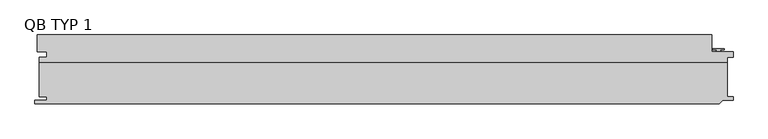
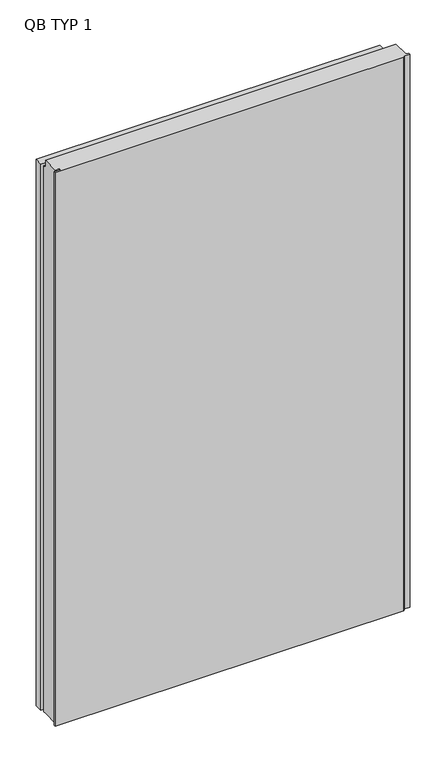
"""IFC4 building model written with IfcOpenShell, lengths in millimetres: plate geometry, TR_C_V_QBISS_Panel : QB TYP 1."""

from ifc_helpers import new_model, si_unit, frame, origin, place, context, project, spatial, polyline, outline, extrude, faceted_brep, source, transform, mapped, element, save


def qb_typ_1_dcc568af(model_context):
    return source(origin(), model_context, "Body", "SolidModel", [
        faceted_brep([(-600.0, -108.0, 2012.4), (-587.0, -108.0, 2012.4), (-587.0, -114.0, 2012.4), (-608.0, -114.0, 2012.4), (-608.0, -120.0, 2012.4), (586.0, -120.0, 2012.4), (592.0, -114.0, 2012.4), (610.0, -114.0, 2012.4), (610.0, -108.0, 2012.4), (600.0, -108.0, 2012.4), (600.0, -49.0, 2012.4), (-600.0, -49.0, 2012.4), (600.0, -108.0, 12.5), (610.0, -108.0, 12.5), (610.0, -114.0, 12.5), (592.0, -114.0, 12.5), (586.0, -120.0, 12.5), (-608.0, -120.0, 12.5), (-608.0, -114.0, 12.5), (-587.0, -114.0, 12.5), (-587.0, -108.0, 12.5), (-600.0, -108.0, 12.5), (-600.0, -49.0, 12.5), (600.0, -49.0, 12.5), (-600.0, -49.0, 12.7), (600.0, -49.0, 12.7), (-600.0, -39.0, 12.7), (-587.0, -39.0, 12.7), (-587.0, -29.0, 12.7), (-604.0, -29.0, 12.7), (-604.0, 0.0, 12.7), (573.0, 0.0, 12.7), (573.0, -29.0, 12.7), (610.0, -29.0, 12.7), (610.0, -39.0, 12.7), (600.0, -39.0, 12.7), (600.0, -39.0, 1987.3), (600.0, -49.0, 1987.3), (610.0, -39.0, 1987.3), (610.0, -29.0, 1987.3), (573.0, -29.0, 1987.3), (573.0, 0.0, 1987.3), (-604.0, 0.0, 1987.3), (-604.0, -29.0, 1987.3), (-587.0, -29.0, 1987.3), (-587.0, -39.0, 1987.3), (-600.0, -39.0, 1987.3), (-600.0, -49.0, 1987.3)], [[[0, 1, 2, 3, 4, 5, 6, 7, 8, 9, 10, 11]], [[12, 13, 14, 15, 16, 17, 18, 19, 20, 21, 22, 23]], [[24, 25, 23, 22]], [[25, 24, 26, 27, 28, 29, 30, 31, 32, 33, 34, 35]], [[1, 0, 21, 20]], [[2, 1, 20, 19]], [[3, 2, 19, 18]], [[4, 3, 18, 17]], [[5, 4, 17, 16]], [[6, 5, 16, 15]], [[7, 6, 15, 14]], [[8, 7, 14, 13]], [[9, 8, 13, 12]], [[9, 12, 23, 25, 35, 36, 37, 10]], [[35, 34, 38, 36]], [[34, 33, 39, 38]], [[33, 32, 40, 39]], [[32, 31, 41, 40]], [[31, 30, 42, 41]], [[30, 29, 43, 42]], [[29, 28, 44, 43]], [[28, 27, 45, 44]], [[27, 26, 46, 45]], [[21, 0, 11, 47, 46, 26, 24, 22]], [[37, 47, 11, 10]], [[47, 37, 36, 38, 39, 40, 41, 42, 43, 44, 45, 46]]]),
        extrude(outline(polyline([(594.5, -24.0), (594.5, -25.4998317), (587.7023593, -25.4998317), (587.7023593, -27.9998293), (588.5023593, -27.9998293), (588.5023593, -28.7998428), (580.5023028, -28.7998428), (580.5023028, -27.9998293), (581.3023028, -27.9998293), (581.3023028, -25.4998317), (574.5, -25.4998317), (574.5, -24.0), (594.5, -24.0)])), frame((0.0, 0.0, 12.5), z_axis=(0.0, 0.0, 1.0), x_axis=(1.0, 0.0, 0.0)), (0.0, 0.0, 1.0), 1975.0),
        extrude(outline(polyline([(-48.2, -11.7), (-44.0, -11.7), (-44.0, -12.5), (-49.0, -12.5), (-49.0, 12.7), (-48.2, 12.7), (-48.2, -11.7)])), frame((-546.0, 0.0, 0.0), z_axis=(1.0, 0.0, 0.0), x_axis=(0.0, 1.0, 0.0)), (0.0, 0.0, 1.0), 1062.0),
    ])


if __name__ == "__main__":
    model = new_model("IFC4")
    model_context = context("Model", 3, world=origin())
    ifc_project = project(units=[si_unit("LENGTHUNIT", "METRE", prefix="MILLI")], contexts=[model_context])
    site = spatial("IfcSite", under=ifc_project)
    building = spatial("IfcBuilding", under=site)
    placement = place(None, origin())
    qb_typ_1_shape = qb_typ_1_dcc568af(model_context)
    element("IfcPlate", 1, ObjectType="TR_C_V_QBISS_Panel : QB TYP 1", at=placement, inside=building, context=model_context, shape_type="MappedRepresentation", body=[
        mapped(qb_typ_1_shape, transform((0.0, 0.0, 0.0), x_axis=(1.0, 0.0, 0.0), y_axis=(0.0, 1.0, 0.0), z_axis=(0.0, 0.0, 1.0))),
    ])
    save(model, "model.ifc")
